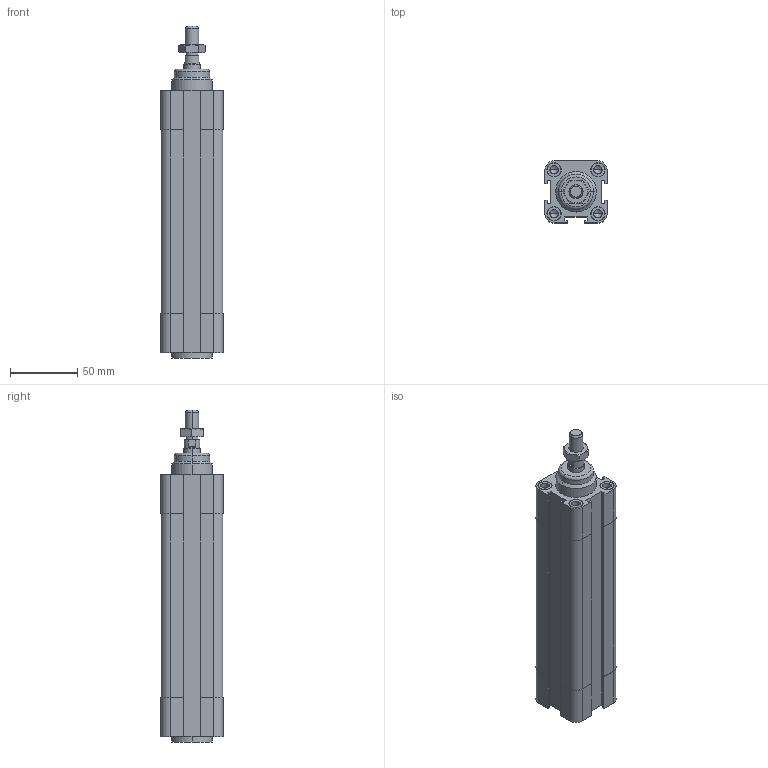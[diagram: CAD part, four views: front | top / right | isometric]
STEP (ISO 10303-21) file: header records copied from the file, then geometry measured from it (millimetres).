
FILE_DESCRIPTION((''),'2;1');
FILE_NAME('F:\Lib-3d\1380\CIL\1380_32_0100_01.stp','2004-01-07T15:58:06',('maffial1'),(''),'Autodesk Inventor 8','Autodesk Inventor 8','');
FILE_SCHEMA(('AUTOMOTIVE_DESIGN { 1 0 10303 214 1 1 1 1 }'));
Length unit declared in the file: millimetre
Products named in the file (4): 1380_32_0100_01; CPP01_32_100; CPP02_32_100; 1320_32_18F
Assembly tree (3 placements, depth 2):
  1380_32_0100_01
    CPP01_32_100
    CPP02_32_100
    1320_32_18F
Bounding box: 46 x 46 x 246 mm (x, y, z)
Volume: 372951.8 mm3; surface area: 64905 mm2
Topology: 3 solids, 3 shells, 244 faces, 570 edges, 356 vertices
Faces by surface type: plane 83, bspline 67, cylinder 58, cone 34, torus 2
Entity records: 7668 total; most frequent: CARTESIAN_POINT 2166, DIRECTION 1136, ORIENTED_EDGE 1108, EDGE_CURVE 554, AXIS2_PLACEMENT_3D 422, VERTEX_POINT 356, VECTOR 292, LINE 292
